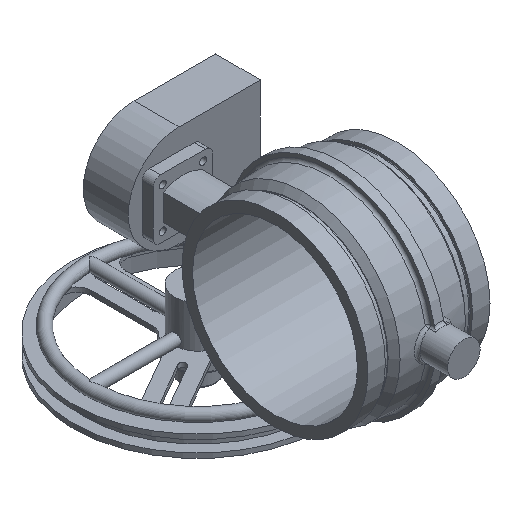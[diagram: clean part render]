
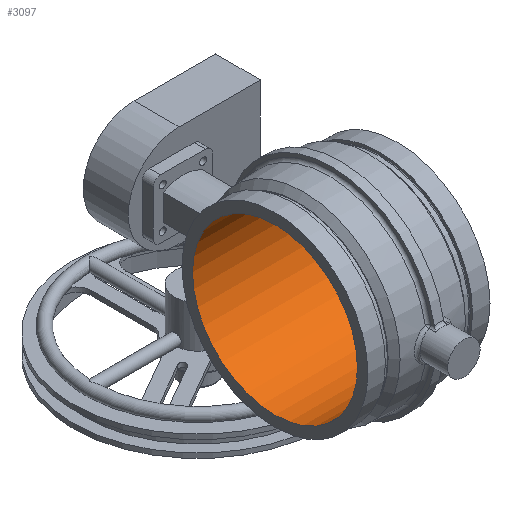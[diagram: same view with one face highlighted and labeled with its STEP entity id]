
A CAD part, isometric view. The second image highlights one B-rep face of the part: STEP entity #3097.
In plain terms, the highlighted cylindrical face has radius 180.213 mm (diameter 360.426 mm), a full revolution.
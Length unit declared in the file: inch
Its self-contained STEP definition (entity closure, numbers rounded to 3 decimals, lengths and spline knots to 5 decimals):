
#341=CIRCLE('',#3474,7.095);
#342=CIRCLE('',#3475,7.095);
#343=CIRCLE('',#3477,7.095);
#344=CIRCLE('',#3478,7.095);
#506=FACE_OUTER_BOUND('',#684,.T.);
#684=EDGE_LOOP('',(#2679,#2680,#2681,#2682,#2683,#2684));
#918=LINE('',#6275,#1067);
#1067=VECTOR('',#4354,7.095);
#1357=VERTEX_POINT('',#6269);
#1358=VERTEX_POINT('',#6270);
#1359=VERTEX_POINT('',#6274);
#1360=VERTEX_POINT('',#6276);
#1801=EDGE_CURVE('',#1357,#1358,#341,.T.);
#1802=EDGE_CURVE('',#1358,#1357,#342,.T.);
#1803=EDGE_CURVE('',#1358,#1359,#918,.T.);
#1804=EDGE_CURVE('',#1360,#1359,#343,.T.);
#1805=EDGE_CURVE('',#1359,#1360,#344,.T.);
#2679=ORIENTED_EDGE('',*,*,#1801,.T.);
#2680=ORIENTED_EDGE('',*,*,#1803,.T.);
#2681=ORIENTED_EDGE('',*,*,#1804,.F.);
#2682=ORIENTED_EDGE('',*,*,#1805,.F.);
#2683=ORIENTED_EDGE('',*,*,#1803,.F.);
#2684=ORIENTED_EDGE('',*,*,#1802,.T.);
#2788=CYLINDRICAL_SURFACE('',#3476,7.095);
#3097=ADVANCED_FACE('',(#506),#2788,.F.);
#3474=AXIS2_PLACEMENT_3D('',#6271,#4348,#4349);
#3475=AXIS2_PLACEMENT_3D('',#6272,#4350,#4351);
#3476=AXIS2_PLACEMENT_3D('',#6273,#4352,#4353);
#3477=AXIS2_PLACEMENT_3D('',#6277,#4355,#4356);
#3478=AXIS2_PLACEMENT_3D('',#6278,#4357,#4358);
#4348=DIRECTION('center_axis',(1.,0.,0.));
#4349=DIRECTION('ref_axis',(0.,1.,0.));
#4350=DIRECTION('center_axis',(1.,0.,0.));
#4351=DIRECTION('ref_axis',(0.,1.,0.));
#4352=DIRECTION('center_axis',(1.,0.,0.));
#4353=DIRECTION('ref_axis',(0.,1.,0.));
#4354=DIRECTION('',(-1.,0.,0.));
#4355=DIRECTION('center_axis',(1.,0.,0.));
#4356=DIRECTION('ref_axis',(0.,1.,0.));
#4357=DIRECTION('center_axis',(1.,0.,0.));
#4358=DIRECTION('ref_axis',(0.,1.,0.));
#6269=CARTESIAN_POINT('',(5.25,7.095,0.));
#6270=CARTESIAN_POINT('',(5.25,-7.095,0.));
#6271=CARTESIAN_POINT('Origin',(5.25,0.,0.));
#6272=CARTESIAN_POINT('Origin',(5.25,0.,0.));
#6273=CARTESIAN_POINT('Origin',(0.,0.,0.));
#6274=CARTESIAN_POINT('',(-5.25,-7.095,0.));
#6275=CARTESIAN_POINT('',(0.,-7.095,0.));
#6276=CARTESIAN_POINT('',(-5.25,7.095,0.));
#6277=CARTESIAN_POINT('Origin',(-5.25,0.,0.));
#6278=CARTESIAN_POINT('Origin',(-5.25,0.,0.));
